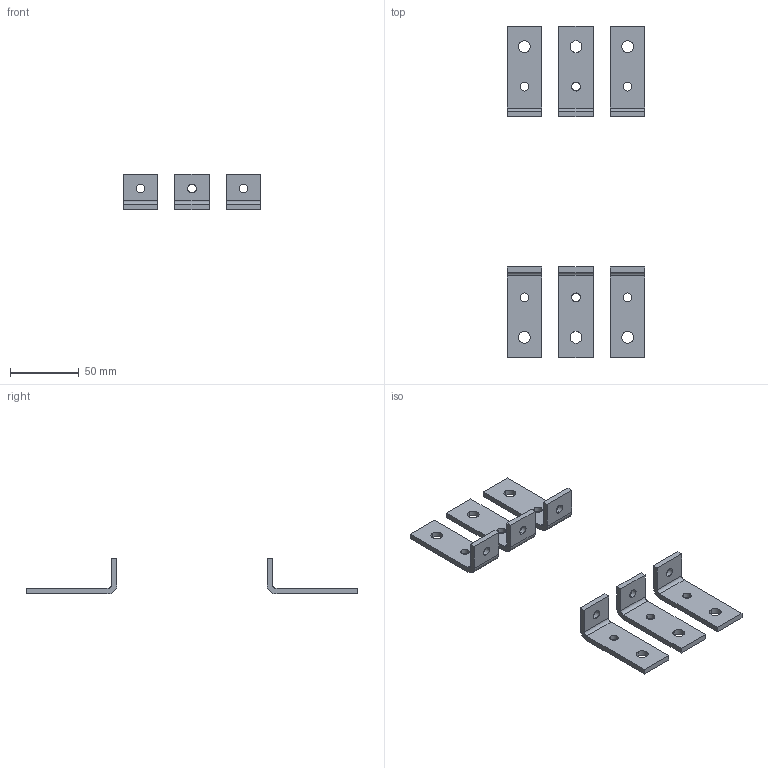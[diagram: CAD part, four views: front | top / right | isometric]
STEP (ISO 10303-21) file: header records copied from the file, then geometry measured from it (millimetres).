
FILE_DESCRIPTION (( 'STEP AP214' ), '1' );
FILE_NAME ('ÂÀ57-35 Âûâîäû äëÿ âòû÷íîé ïàíåëè ïåðåäíåå ïðèñîåäèíåíèå.STEP', '2023-07-14T07:55:28', ( '' ), ( '' ), 'SwSTEP 2.0', 'SolidWorks 2018', '' );
FILE_SCHEMA (( 'AUTOMOTIVE_DESIGN' ));
Length unit declared in the file: millimetre
Products named in the file (1): ÂÀ57-35 Âûâîäû äëÿ âòû÷íîé ïàíåëè ïåðåäíåå ïðèñîåäèíåíèå
Bounding box: 100 x 241 x 26 mm (x, y, z)
Volume: 48783 mm3; surface area: 31313.7 mm2
Topology: 6 solids, 6 shells, 96 faces, 252 edges, 168 vertices
Faces by surface type: cylinder 48, plane 48
Entity records: 4199 total; most frequent: DIRECTION 542, CARTESIAN_POINT 517, ORIENTED_EDGE 504, EDGE_CURVE 252, AXIS2_PLACEMENT_3D 193, VERTEX_POINT 168, LINE 156, VECTOR 156
